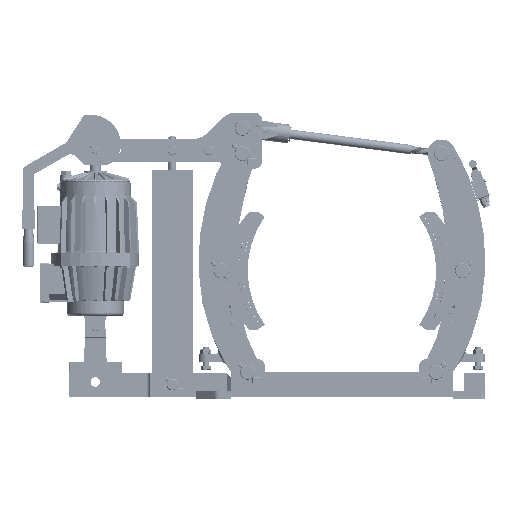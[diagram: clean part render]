
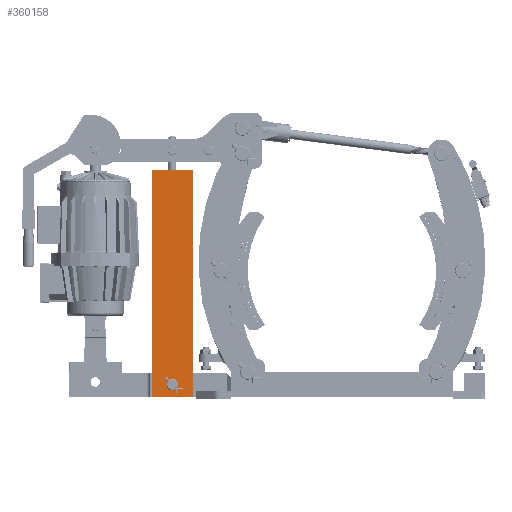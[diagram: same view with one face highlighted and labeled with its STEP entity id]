
A CAD part, left-side view. The second image highlights one B-rep face of the part: STEP entity #360158.
In plain terms, the highlighted planar face has unit normal (-1, 0, 0).
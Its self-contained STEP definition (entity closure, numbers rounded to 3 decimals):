
#359989=DIRECTION('',(0.,0.,1.));
#359990=VECTOR('',#359989,600.);
#359991=CARTESIAN_POINT('',(-140.,884.997,6.));
#359992=LINE('',#359991,#359990);
#359996=DIRECTION('',(0.,-1.,0.));
#359997=VECTOR('',#359996,110.);
#359998=CARTESIAN_POINT('',(-140.,884.997,606.));
#359999=LINE('',#359998,#359997);
#360003=DIRECTION('',(0.,0.,-1.));
#360004=VECTOR('',#360003,600.);
#360005=CARTESIAN_POINT('',(-140.,774.997,606.));
#360006=LINE('',#360005,#360004);
#360010=DIRECTION('',(0.,1.,0.));
#360011=VECTOR('',#360010,110.);
#360012=CARTESIAN_POINT('',(-140.,774.997,6.));
#360013=LINE('',#360012,#360011);
#360017=CARTESIAN_POINT('',(-140.,830.,23.));
#360018=CARTESIAN_POINT('',(-140.,829.586,23.));
#360019=CARTESIAN_POINT('',(-140.,828.76,23.034));
#360020=CARTESIAN_POINT('',(-140.,827.527,23.188));
#360021=CARTESIAN_POINT('',(-140.,826.312,23.443));
#360022=CARTESIAN_POINT('',(-140.,825.123,23.797));
#360023=CARTESIAN_POINT('',(-140.,823.965,24.249));
#360024=CARTESIAN_POINT('',(-140.,822.849,24.795));
#360025=CARTESIAN_POINT('',(-140.,821.782,25.431));
#360026=CARTESIAN_POINT('',(-140.,820.772,26.152));
#360027=CARTESIAN_POINT('',(-140.,819.826,26.955));
#360028=CARTESIAN_POINT('',(-140.,818.949,27.832));
#360029=CARTESIAN_POINT('',(-140.,818.147,28.779));
#360030=CARTESIAN_POINT('',(-140.,817.427,29.788));
#360031=CARTESIAN_POINT('',(-140.,816.792,30.854));
#360032=CARTESIAN_POINT('',(-140.,816.247,31.969));
#360033=CARTESIAN_POINT('',(-140.,815.796,33.126));
#360034=CARTESIAN_POINT('',(-140.,815.443,34.313));
#360035=CARTESIAN_POINT('',(-140.,815.188,35.527));
#360036=CARTESIAN_POINT('',(-140.,815.034,36.759));
#360037=CARTESIAN_POINT('',(-140.,815.,37.585));
#360038=CARTESIAN_POINT('',(-140.,815.,38.));
#360043=CARTESIAN_POINT('',(-140.,815.,38.));
#360044=CARTESIAN_POINT('',(-140.,815.,38.414));
#360045=CARTESIAN_POINT('',(-140.,815.034,39.24));
#360046=CARTESIAN_POINT('',(-140.,815.188,40.473));
#360047=CARTESIAN_POINT('',(-140.,815.443,41.688));
#360048=CARTESIAN_POINT('',(-140.,815.797,42.877));
#360049=CARTESIAN_POINT('',(-140.,816.249,44.035));
#360050=CARTESIAN_POINT('',(-140.,816.795,45.151));
#360051=CARTESIAN_POINT('',(-140.,817.431,46.218));
#360052=CARTESIAN_POINT('',(-140.,818.152,47.228));
#360053=CARTESIAN_POINT('',(-140.,818.955,48.174));
#360054=CARTESIAN_POINT('',(-140.,819.832,49.051));
#360055=CARTESIAN_POINT('',(-140.,820.779,49.853));
#360056=CARTESIAN_POINT('',(-140.,821.788,50.573));
#360057=CARTESIAN_POINT('',(-140.,822.854,51.208));
#360058=CARTESIAN_POINT('',(-140.,823.969,51.753));
#360059=CARTESIAN_POINT('',(-140.,825.126,52.204));
#360060=CARTESIAN_POINT('',(-140.,826.313,52.557));
#360061=CARTESIAN_POINT('',(-140.,827.527,52.812));
#360062=CARTESIAN_POINT('',(-140.,828.759,52.966));
#360063=CARTESIAN_POINT('',(-140.,829.585,53.));
#360064=CARTESIAN_POINT('',(-140.,830.,53.));
#360069=CARTESIAN_POINT('',(-140.,830.,53.));
#360070=CARTESIAN_POINT('',(-140.,830.414,53.));
#360071=CARTESIAN_POINT('',(-140.,831.24,52.966));
#360072=CARTESIAN_POINT('',(-140.,832.473,52.812));
#360073=CARTESIAN_POINT('',(-140.,833.688,52.557));
#360074=CARTESIAN_POINT('',(-140.,834.877,52.203));
#360075=CARTESIAN_POINT('',(-140.,836.035,51.751));
#360076=CARTESIAN_POINT('',(-140.,837.151,51.205));
#360077=CARTESIAN_POINT('',(-140.,838.218,50.569));
#360078=CARTESIAN_POINT('',(-140.,839.228,49.848));
#360079=CARTESIAN_POINT('',(-140.,840.174,49.045));
#360080=CARTESIAN_POINT('',(-140.,841.051,48.168));
#360081=CARTESIAN_POINT('',(-140.,841.853,47.221));
#360082=CARTESIAN_POINT('',(-140.,842.573,46.212));
#360083=CARTESIAN_POINT('',(-140.,843.208,45.146));
#360084=CARTESIAN_POINT('',(-140.,843.753,44.031));
#360085=CARTESIAN_POINT('',(-140.,844.204,42.874));
#360086=CARTESIAN_POINT('',(-140.,844.557,41.687));
#360087=CARTESIAN_POINT('',(-140.,844.812,40.473));
#360088=CARTESIAN_POINT('',(-140.,844.966,39.241));
#360089=CARTESIAN_POINT('',(-140.,845.,38.415));
#360090=CARTESIAN_POINT('',(-140.,845.,38.));
#360095=CARTESIAN_POINT('',(-140.,845.,38.));
#360096=CARTESIAN_POINT('',(-140.,845.,37.586));
#360097=CARTESIAN_POINT('',(-140.,844.966,36.76));
#360098=CARTESIAN_POINT('',(-140.,844.812,35.527));
#360099=CARTESIAN_POINT('',(-140.,844.557,34.312));
#360100=CARTESIAN_POINT('',(-140.,844.203,33.123));
#360101=CARTESIAN_POINT('',(-140.,843.751,31.965));
#360102=CARTESIAN_POINT('',(-140.,843.205,30.849));
#360103=CARTESIAN_POINT('',(-140.,842.569,29.782));
#360104=CARTESIAN_POINT('',(-140.,841.848,28.772));
#360105=CARTESIAN_POINT('',(-140.,841.045,27.826));
#360106=CARTESIAN_POINT('',(-140.,840.168,26.949));
#360107=CARTESIAN_POINT('',(-140.,839.221,26.147));
#360108=CARTESIAN_POINT('',(-140.,838.212,25.427));
#360109=CARTESIAN_POINT('',(-140.,837.146,24.792));
#360110=CARTESIAN_POINT('',(-140.,836.031,24.247));
#360111=CARTESIAN_POINT('',(-140.,834.874,23.796));
#360112=CARTESIAN_POINT('',(-140.,833.687,23.443));
#360113=CARTESIAN_POINT('',(-140.,832.473,23.188));
#360114=CARTESIAN_POINT('',(-140.,831.241,23.034));
#360115=CARTESIAN_POINT('',(-140.,830.415,23.));
#360116=CARTESIAN_POINT('',(-140.,830.,23.));
#360121=CARTESIAN_POINT('',(-140.,884.997,6.));
#360122=CARTESIAN_POINT('',(-140.,884.997,606.));
#360123=VERTEX_POINT('',#360121);
#360124=VERTEX_POINT('',#360122);
#360125=CARTESIAN_POINT('',(-140.,774.997,606.));
#360126=VERTEX_POINT('',#360125);
#360127=CARTESIAN_POINT('',(-140.,774.997,6.));
#360128=VERTEX_POINT('',#360127);
#360129=VERTEX_POINT('',#360017);
#360130=VERTEX_POINT('',#360038);
#360131=VERTEX_POINT('',#360064);
#360132=VERTEX_POINT('',#360090);
#360133=CARTESIAN_POINT('',(-140.,829.997,306.));
#360134=DIRECTION('',(1.,0.,0.));
#360135=DIRECTION('',(0.,0.,1.));
#360136=AXIS2_PLACEMENT_3D('',#360133,#360134,#360135);
#360137=PLANE('',#360136);
#360139=ORIENTED_EDGE('',*,*,#360138,.T.);
#360141=ORIENTED_EDGE('',*,*,#360140,.T.);
#360143=ORIENTED_EDGE('',*,*,#360142,.T.);
#360145=ORIENTED_EDGE('',*,*,#360144,.T.);
#360146=EDGE_LOOP('',(#360139,#360141,#360143,#360145));
#360147=FACE_OUTER_BOUND('',#360146,.F.);
#360149=ORIENTED_EDGE('',*,*,#360148,.T.);
#360151=ORIENTED_EDGE('',*,*,#360150,.T.);
#360153=ORIENTED_EDGE('',*,*,#360152,.T.);
#360155=ORIENTED_EDGE('',*,*,#360154,.T.);
#360156=EDGE_LOOP('',(#360149,#360151,#360153,#360155));
#360157=FACE_BOUND('',#360156,.F.);
#360158=ADVANCED_FACE('',(#360147,#360157),#360137,.F.);
#360039=B_SPLINE_CURVE_WITH_KNOTS('',3,(#360017,#360018,#360019,#360020,#360021,
#360022,#360023,#360024,#360025,#360026,#360027,#360028,#360029,#360030,#360031,
#360032,#360033,#360034,#360035,#360036,#360037,#360038),.UNSPECIFIED.,.F.,.F.,(
4,1,1,1,1,1,1,1,1,1,1,1,1,1,1,1,1,1,1,4),(0.,0.053,
0.105,0.158,0.211,0.263,
0.316,0.368,0.421,0.474,
0.526,0.579,0.632,0.684,
0.737,0.789,0.842,0.895,
0.947,1.),.UNSPECIFIED.);
#360065=B_SPLINE_CURVE_WITH_KNOTS('',3,(#360043,#360044,#360045,#360046,#360047,
#360048,#360049,#360050,#360051,#360052,#360053,#360054,#360055,#360056,#360057,
#360058,#360059,#360060,#360061,#360062,#360063,#360064),.UNSPECIFIED.,.F.,.F.,(
4,1,1,1,1,1,1,1,1,1,1,1,1,1,1,1,1,1,1,4),(0.,0.053,
0.105,0.158,0.211,0.263,
0.316,0.368,0.421,0.474,
0.526,0.579,0.632,0.684,
0.737,0.789,0.842,0.895,
0.947,1.),.UNSPECIFIED.);
#360091=B_SPLINE_CURVE_WITH_KNOTS('',3,(#360069,#360070,#360071,#360072,#360073,
#360074,#360075,#360076,#360077,#360078,#360079,#360080,#360081,#360082,#360083,
#360084,#360085,#360086,#360087,#360088,#360089,#360090),.UNSPECIFIED.,.F.,.F.,(
4,1,1,1,1,1,1,1,1,1,1,1,1,1,1,1,1,1,1,4),(0.,0.053,
0.105,0.158,0.211,0.263,
0.316,0.368,0.421,0.474,
0.526,0.579,0.632,0.684,
0.737,0.789,0.842,0.895,
0.947,1.),.UNSPECIFIED.);
#360117=B_SPLINE_CURVE_WITH_KNOTS('',3,(#360095,#360096,#360097,#360098,#360099,
#360100,#360101,#360102,#360103,#360104,#360105,#360106,#360107,#360108,#360109,
#360110,#360111,#360112,#360113,#360114,#360115,#360116),.UNSPECIFIED.,.F.,.F.,(
4,1,1,1,1,1,1,1,1,1,1,1,1,1,1,1,1,1,1,4),(0.,0.053,
0.105,0.158,0.211,0.263,
0.316,0.368,0.421,0.474,
0.526,0.579,0.632,0.684,
0.737,0.789,0.842,0.895,
0.947,1.),.UNSPECIFIED.);
#360138=EDGE_CURVE('',#360123,#360124,#359992,.T.);
#360140=EDGE_CURVE('',#360124,#360126,#359999,.T.);
#360142=EDGE_CURVE('',#360126,#360128,#360006,.T.);
#360144=EDGE_CURVE('',#360128,#360123,#360013,.T.);
#360148=EDGE_CURVE('',#360129,#360130,#360039,.T.);
#360150=EDGE_CURVE('',#360130,#360131,#360065,.T.);
#360152=EDGE_CURVE('',#360131,#360132,#360091,.T.);
#360154=EDGE_CURVE('',#360132,#360129,#360117,.T.);
